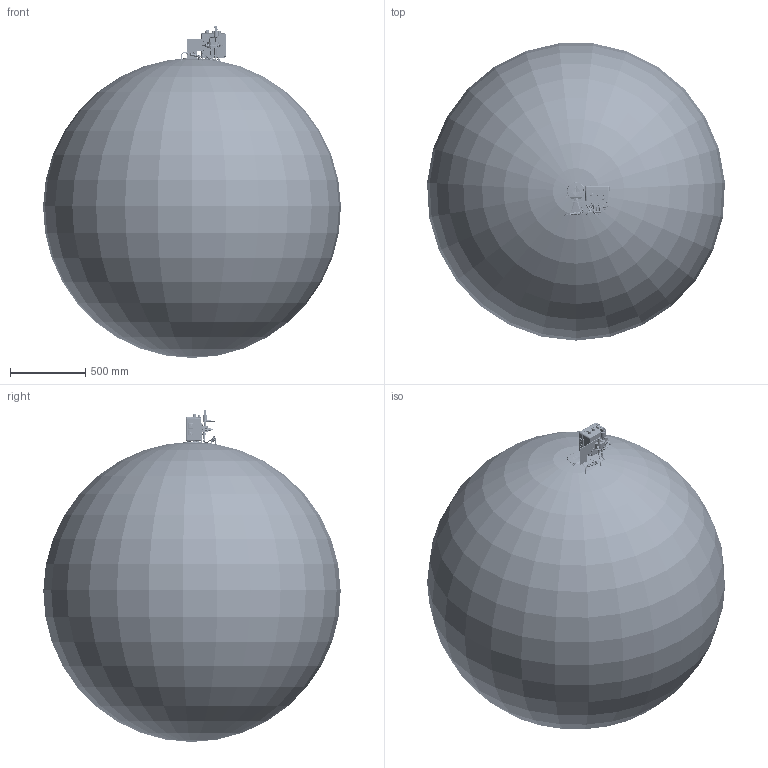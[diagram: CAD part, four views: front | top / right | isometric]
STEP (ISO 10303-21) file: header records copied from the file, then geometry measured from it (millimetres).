
FILE_DESCRIPTION(('STEP AP242'), '1');
FILE_NAME('ÑÃ-ÝÊÐ-Ð-100 ÐÂÃ-Á ñ ÏÏÄ ñíèçó ââåðõ êîðð ñïðàâà', '', ('UNSPECIFIED'), ('UNSPECIFIED'), 'C3D Converter', 'C3D Toolkit', '');
FILE_SCHEMA(('AP242_MANAGED_MODEL_BASED_3D_ENGINEERING_MIM_LF { 1 0 10303 442 1 1 4 }'));
Length unit declared in the file: millimetre
Bounding box: 1985.44 x 1982.08 x 2213.17 mm (x, y, z)
Volume: 4138352369.5 mm3; surface area: 13733222.1 mm2
Topology: 178 solids, 179 shells, 9760 faces, 25177 edges, 16302 vertices
Faces by surface type: plane 3462, extrusion 2891, cylinder 1836, cone 841, bspline 455, torus 235, sphere 40
Full cylindrical faces by diameter (mm): 1.5 x8, 1.95 x3, 2 x41, 2.2 x14, 2.3 x8, 2.459 x11, 2.5 x20, 2.791 x2, 3 x27, 3.2 x11, 3.242 x9, 3.3 x4, 3.45 x3, 3.459 x2, 3.688 x1, 3.9 x4, 4 x50, 4.134 x9, 4.3 x12, 4.5 x1, 4.917 x15, 5 x26, 5.2 x12, 5.5 x10, 6 x55, 6.2 x4, 6.5 x6, 6.6 x4, 7 x18, 8 x10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
Entity records: 519956 total; most frequent: CARTESIAN_POINT 223849, ORIENTED_EDGE 47428, DIRECTION 34783, EDGE_CURVE 23715, VERTEX_POINT 16236, VECTOR 13635, EDGE_LOOP 12095, B_SPLINE_CURVE_WITH_KNOTS 11340
